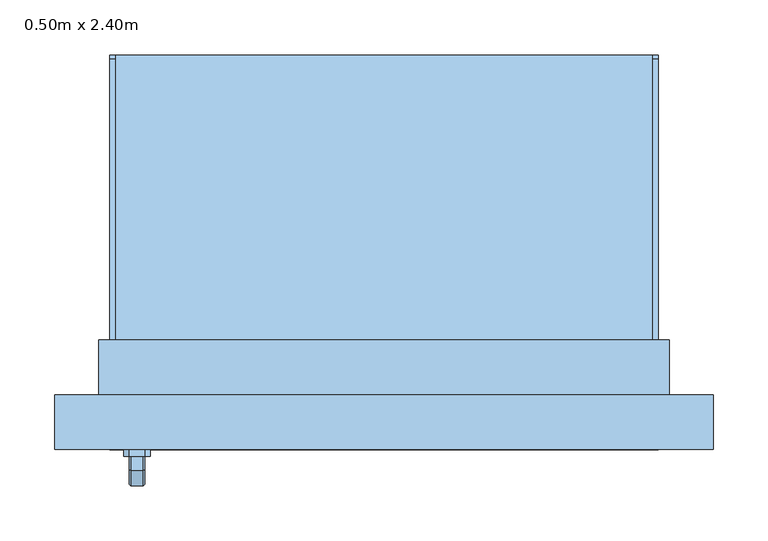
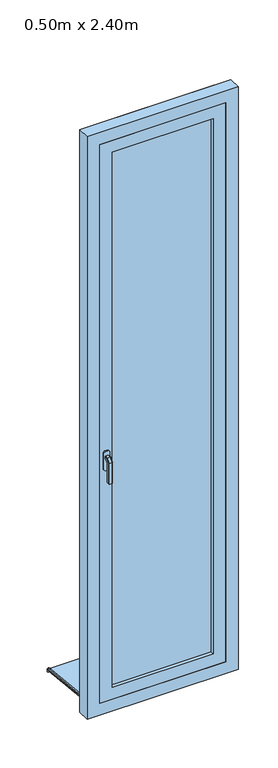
"""IFC4 building model written with IfcOpenShell, lengths in millimetres: window geometry, PF 1 Vantail - Droite : 0.50m x 2.40m."""

from ifc_helpers import new_model, si_unit, point, frame, frame_2d, origin, place, context, project, spatial, polyline, circle_curve, trimmed, segment, composite_curve, outline, extrude, faceted_brep, source, transform, mapped, element, save


def window_0_50m_x_2_40m_2195513b(model_context):
    return source(origin(), model_context, "Body", "SolidModel", [
        faceted_brep([(-219.3539903, -181.0, 1122.0339292), (-217.9660708, -181.0, 1120.6460097), (-217.9660708, -181.0, 1109.3323012), (-219.3323012, -181.0, 1107.9660708), (-230.6676988, -181.0, 1107.9660708), (-232.0339292, -181.0, 1109.3323012), (-232.0339292, -181.0, 1120.6460097), (-230.6460097, -181.0, 1122.0339292), (-219.3539903, -193.9135489, 1122.0339292), (-217.9660708, -193.3386538, 1120.6460097), (-217.9660708, -206.6460097, 1107.3386538), (-217.9660708, -206.6460097, 1020.0), (-217.9660708, -195.3323012, 1020.0), (-217.9660708, -195.3323012, 1102.6523623), (-217.9660708, -188.6523623, 1109.3323012), (-219.3323012, -188.0864511, 1107.9660708), (-230.6676988, -188.0864511, 1107.9660708), (-232.0339292, -188.6523623, 1109.3323012), (-232.0339292, -195.3323012, 1102.6523623), (-232.0339292, -195.3323012, 1020.0), (-232.0339292, -206.6460097, 1020.0), (-232.0339292, -206.6460097, 1107.3386538), (-232.0339292, -193.3386538, 1120.6460097), (-230.6460097, -193.9135489, 1122.0339292), (-219.3539903, -208.0339292, 1107.9135489), (-219.3323012, -193.9660708, 1102.0864511), (-230.6676988, -193.9660708, 1102.0864511), (-230.6460097, -208.0339292, 1107.9135489), (-219.3539903, -208.0339292, 1020.0), (-230.6460097, -208.0339292, 1020.0), (-230.6676988, -193.9660708, 1020.0), (-219.3323012, -193.9660708, 1020.0)], [[[0, 1, 2, 3, 4, 5, 6, 7]], [[1, 0, 8, 9]], [[2, 1, 9, 10, 11, 12, 13, 14]], [[3, 2, 14, 15]], [[4, 3, 15, 16]], [[5, 4, 16, 17]], [[6, 5, 17, 18, 19, 20, 21, 22]], [[7, 6, 22, 23]], [[0, 7, 23, 8]], [[9, 8, 24, 10]], [[15, 14, 13, 25]], [[16, 15, 25, 26]], [[17, 16, 26, 18]], [[23, 22, 21, 27]], [[8, 23, 27, 24]], [[28, 29, 20, 19, 30, 31, 12, 11]], [[10, 24, 28, 11]], [[25, 13, 12, 31]], [[26, 25, 31, 30]], [[18, 26, 30, 19]], [[27, 21, 20, 29]], [[24, 27, 29, 28]]]),
        extrude(outline(polyline([(1140.0, -218.0), (1140.0, -232.0), (1135.0, -237.0), (1065.0, -237.0), (1060.0, -232.0), (1060.0, -218.0), (1065.0, -213.0), (1135.0, -213.0), (1140.0, -218.0)])), frame((0.0, -181.0, 0.0), z_axis=(0.0, 1.0, 0.0), x_axis=(0.0, 0.0, 1.0)), (0.0, 0.0, 1.0), 6.0),
        extrude(outline(polyline([(185.0288776, 10.8229907), (185.0288776, -0.2552118), (180.0288776, 0.2703094), (180.0288776, 6.0933001), (-95.0, 35.0), (-95.0, 50.0), (-90.0, 50.0), (-90.0, 39.7296906), (185.0288776, 10.8229907)])), frame((-250.0, 0.0, 0.0), z_axis=(1.0, 0.0, 0.0), x_axis=(0.0, 1.0, 0.0)), (0.0, 0.0, 1.0), 500.0),
        extrude(outline(composite_curve([segment(polyline([(185.0288776, 10.8229907), (-90.0, 39.7296906), (-90.0, 44.757232), (181.4469915, 16.2270035)]), True, "CONTINUOUS"), segment(trimmed(circle_curve(frame_2d((181.0288776, 12.2489159)), 4.0), [point((181.4469915, 16.2270035))], [point((185.0288776, 12.2489159))], False, "CARTESIAN"), True, "CONTINUOUS"), segment(polyline([(185.0288776, 12.2489159), (185.0288776, 10.8229907)]), True, "CONTINUOUS")], self_intersect=False)), frame((-250.0, 0.0, 0.0), z_axis=(1.0, 0.0, 0.0), x_axis=(0.0, 1.0, 0.0)), (0.0, 0.0, 1.0), 5.0),
        extrude(outline(composite_curve([segment(polyline([(185.0288776, 10.8229907), (-90.0, 39.7296906), (-90.0, 44.757232), (181.4469915, 16.2270035)]), True, "CONTINUOUS"), segment(trimmed(circle_curve(frame_2d((181.0288776, 12.2489159)), 4.0), [point((181.4469915, 16.2270035))], [point((185.0288776, 12.2489159))], False, "CARTESIAN"), True, "CONTINUOUS"), segment(polyline([(185.0288776, 12.2489159), (185.0288776, 10.8229907)]), True, "CONTINUOUS")], self_intersect=False)), frame((245.0, 0.0, 0.0), z_axis=(1.0, 0.0, 0.0), x_axis=(0.0, 1.0, 0.0)), (0.0, 0.0, 1.0), 5.0),
        extrude(outline(polyline([(35.0, -260.0), (35.0, -250.0), (2435.0, -250.0), (2435.0, 250.0), (35.0, 250.0), (35.0, 260.0), (2445.0, 260.0), (2445.0, -260.0), (35.0, -260.0)])), frame((0.0, -125.0, 0.0), z_axis=(0.0, 1.0, 0.0), x_axis=(0.0, 0.0, 1.0)), (0.0, 0.0, 1.0), 50.0),
        faceted_brep([(-300.0, -175.0, 35.0), (-300.0, -125.0, 35.0), (-250.0, -125.0, 35.0), (-250.0, -95.0, 35.0), (250.0, -95.0, 35.0), (250.0, -125.0, 35.0), (300.0, -125.0, 35.0), (300.0, -175.0, 35.0), (-300.0, -175.0, 2485.0), (-300.0, -125.0, 2485.0), (300.0, -125.0, 2485.0), (250.0, -125.0, 74.3761425), (-250.0, -125.0, 74.3761425), (-235.0, -125.0, 2420.0), (-235.0, -125.0, 100.0), (235.0, -125.0, 100.0), (235.0, -125.0, 2420.0), (-250.0, -75.0, 60.9786829), (-250.0, -75.0, 45.0), (-250.0, -85.0, 45.0), (-250.0, -85.0, 50.0), (-250.0, -95.0, 50.0), (250.0, -95.0, 50.0), (250.0, -85.0, 50.0), (250.0, -85.0, 45.0), (250.0, -75.0, 45.0), (250.0, -75.0, 60.9786829), (300.0, -175.0, 2485.0), (250.0, -175.0, 2435.0), (250.0, -175.0, 85.0), (-250.0, -175.0, 85.0), (-250.0, -175.0, 2435.0), (-235.0, -135.0, 2420.0), (-235.0, -135.0, 100.0), (235.0, -135.0, 100.0), (235.0, -135.0, 2420.0), (250.0, -135.0, 2435.0), (-250.0, -135.0, 2435.0), (-250.0, -135.0, 85.0), (250.0, -135.0, 85.0)], [[[0, 1, 2, 3, 4, 5, 6, 7]], [[1, 0, 8, 9]], [[1, 9, 10, 6, 5, 11, 12, 2], [13, 14, 15, 16]], [[12, 17, 18, 19, 20, 21, 3, 2]], [[3, 21, 22, 4]], [[4, 22, 23, 24, 25, 26, 11, 5]], [[6, 10, 27, 7]], [[0, 7, 27, 8], [28, 29, 30, 31]], [[13, 32, 33, 14]], [[33, 34, 15, 14]], [[35, 16, 15, 34]], [[17, 12, 11, 26]], [[36, 37, 38, 39], [32, 35, 34, 33]], [[38, 37, 31, 30]], [[30, 29, 39, 38]], [[28, 36, 39, 29]], [[18, 17, 26, 25]], [[19, 18, 25, 24]], [[20, 19, 24, 23]], [[21, 20, 23, 22]], [[13, 16, 35, 32]], [[10, 9, 8, 27]], [[37, 36, 28, 31]]]),
        extrude(outline(polyline([(85.0, 250.0), (2435.0, 250.0), (2435.0, -250.0), (85.0, -250.0), (85.0, 250.0)]), holes=[polyline([(135.0, -200.0), (2385.0, -200.0), (2385.0, 200.0), (135.0, 200.0), (135.0, -200.0)])]), frame((0.0, -175.0, 0.0), z_axis=(0.0, 1.0, 0.0), x_axis=(0.0, 0.0, 1.0)), (0.0, 0.0, 1.0), 40.0),
        extrude(outline(polyline([(-200.0, -149.0), (200.0, -149.0), (200.0, -161.0), (-200.0, -161.0), (-200.0, -149.0)])), frame((0.0, 0.0, 135.0), z_axis=(0.0, 0.0, 1.0), x_axis=(1.0, 0.0, 0.0)), (0.0, 0.0, 1.0), 2250.0),
    ])


if __name__ == "__main__":
    model = new_model("IFC4")
    model_context = context("Model", 3, world=origin())
    ifc_project = project(units=[si_unit("LENGTHUNIT", "METRE", prefix="MILLI")], contexts=[model_context])
    site = spatial("IfcSite", under=ifc_project)
    building = spatial("IfcBuilding", under=site)
    placement = place(None, origin())
    window_0_50m_x_2_40m_shape = window_0_50m_x_2_40m_2195513b(model_context)
    element("IfcWindow", 1, ObjectType="PF 1 Vantail - Droite : 0.50m x 2.40m", at=placement, inside=building, context=model_context, shape_type="MappedRepresentation", body=[
        mapped(window_0_50m_x_2_40m_shape, transform((0.0, 0.0, 0.0), x_axis=(1.0, 0.0, 0.0), y_axis=(0.0, 1.0, 0.0), z_axis=(0.0, 0.0, 1.0))),
    ])
    save(model, "model.ifc")
